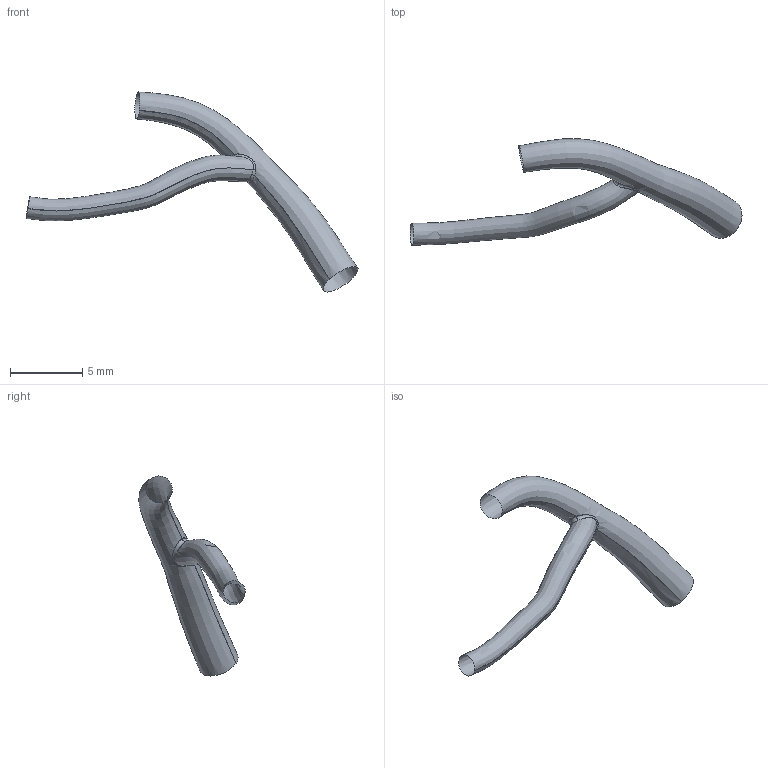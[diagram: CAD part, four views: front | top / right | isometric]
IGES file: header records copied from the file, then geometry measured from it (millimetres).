
Global section: file name: C:\Documents and Settings\Administrator\Desktop\FDA Bifurcation win\RawData_for_IGES\HRCA_Data\20000201.093459\IGES\20000201.093459.PDA.BIFUR.ED.igs; native system: Rhinoceros ( May 19 2006 ); preprocessor: Trout Lake IGES 012 May 19 2006; date: 100728.200609; units: centimetre
Bounding box: 22.94 x 7.35 x 13.82 mm (x, y, z)
Surface area: 227.9 mm2 (no closed solid volume)
Topology: 0 solids, 0 shells, 5 faces, 42 edges, 39 vertices
Faces by surface type: bspline 5
